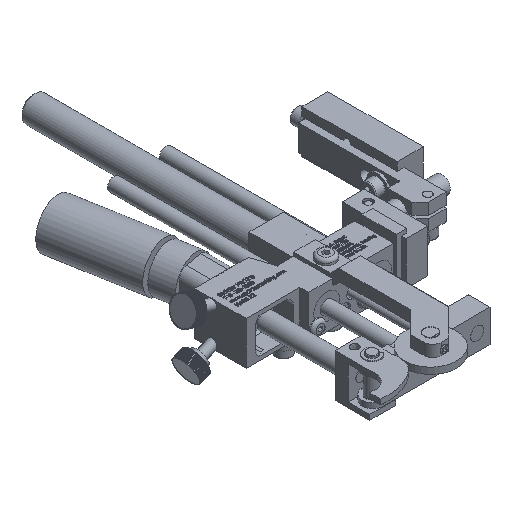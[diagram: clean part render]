
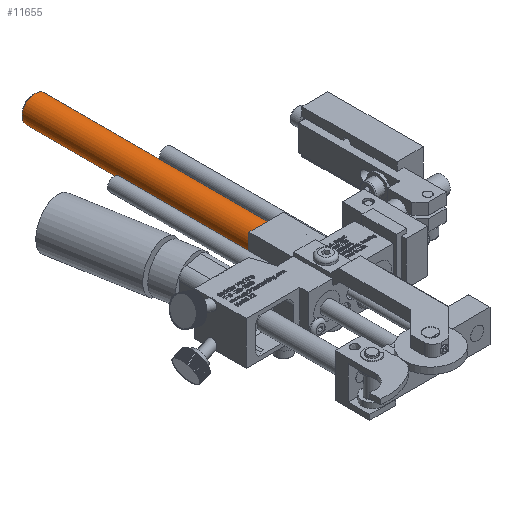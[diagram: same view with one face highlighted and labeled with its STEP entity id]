
A CAD part, isometric view. The second image highlights one B-rep face of the part: STEP entity #11655.
In plain terms, the highlighted cylindrical face has radius 4.763 mm (diameter 9.525 mm), a full revolution.
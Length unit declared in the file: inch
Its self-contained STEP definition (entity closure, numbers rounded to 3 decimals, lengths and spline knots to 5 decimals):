
#11624=CARTESIAN_POINT('',(0.69592,4.68233,-0.5005));
#11625=VERTEX_POINT('',#11624);
#11626=CARTESIAN_POINT('',(0.69592,4.68233,-0.313));
#11627=DIRECTION('',(0.0,1.0,0.0));
#11628=DIRECTION('',(0.0,0.0,1.0));
#11629=AXIS2_PLACEMENT_3D('',#11626,#11627,#11628);
#11630=CIRCLE('',#11629,0.1875);
#11631=EDGE_CURVE('',#11625,#11625,#11630,.T.);
#11636=CARTESIAN_POINT('',(0.69592,1.33733,-0.313));
#11637=DIRECTION('',(0.,1.0,0.));
#11638=DIRECTION('',(0.0,0.0,1.0));
#11639=AXIS2_PLACEMENT_3D('',#11636,#11637,#11638);
#11640=CYLINDRICAL_SURFACE('',#11639,0.1875);
#11641=CARTESIAN_POINT('',(0.69592,1.33733,-0.5005));
#11642=VERTEX_POINT('',#11641);
#11643=CARTESIAN_POINT('',(0.69592,1.33733,-0.313));
#11644=DIRECTION('',(0.0,-1.0,0.0));
#11645=DIRECTION('',(0.0,0.0,1.0));
#11646=AXIS2_PLACEMENT_3D('',#11643,#11644,#11645);
#11647=CIRCLE('',#11646,0.1875);
#11648=EDGE_CURVE('',#11642,#11642,#11647,.T.);
#11649=ORIENTED_EDGE('',*,*,#11648,.F.);
#11650=EDGE_LOOP('',(#11649));
#11651=FACE_OUTER_BOUND('',#11650,.T.);
#11652=ORIENTED_EDGE('',*,*,#11631,.F.);
#11653=EDGE_LOOP('',(#11652));
#11654=FACE_BOUND('',#11653,.T.);
#11655=ADVANCED_FACE('',(#11651,#11654),#11640,.T.);
